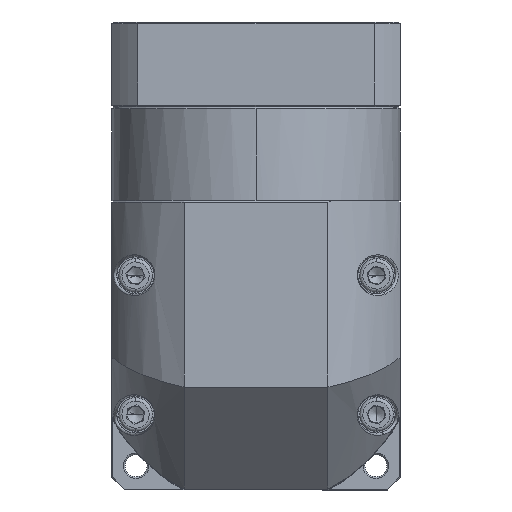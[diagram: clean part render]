
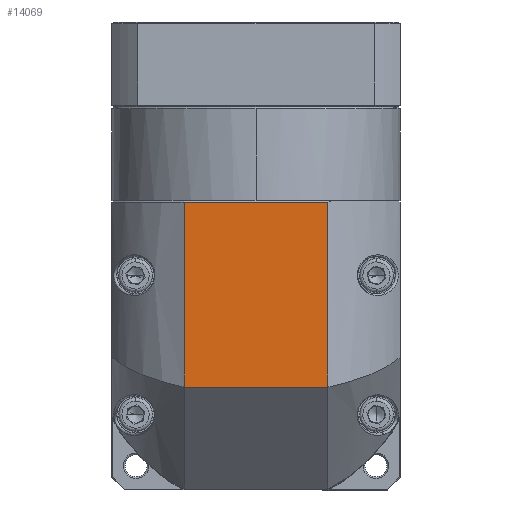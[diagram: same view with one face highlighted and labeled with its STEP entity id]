
A CAD part, top view. The second image highlights one B-rep face of the part: STEP entity #14069.
In plain terms, the highlighted planar face has unit normal (0, 0, 1).
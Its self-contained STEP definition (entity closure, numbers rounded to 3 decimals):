
#6417 = ORIENTED_EDGE ( 'NONE', *, *, #77126, .F. ) ;
#11284 = CARTESIAN_POINT ( 'NONE',  ( -49.272, 29.627, 70.161 ) ) ;
#11583 = LINE ( 'NONE', #93164, #60177 ) ;
#12462 = PLANE ( 'NONE',  #86927 ) ;
#14069 = ADVANCED_FACE ( 'NONE', ( #56382 ), #12462, .T. ) ;
#19924 = VECTOR ( 'NONE', #68169, 1000. ) ;
#22046 = DIRECTION ( 'NONE',  ( -1., 0., 0. ) ) ;
#22321 = DIRECTION ( 'NONE',  ( 0., 0., 1. ) ) ;
#27762 = VERTEX_POINT ( 'NONE', #110398 ) ;
#30277 = CARTESIAN_POINT ( 'NONE',  ( -70.485, 29.627, 70.161 ) ) ;
#32224 = LINE ( 'NONE', #11284, #52422 ) ;
#37847 = VECTOR ( 'NONE', #99045, 1000. ) ;
#39814 = DIRECTION ( 'NONE',  ( -1., 0., 0. ) ) ;
#40146 = LINE ( 'NONE', #66761, #19924 ) ;
#40949 = VERTEX_POINT ( 'NONE', #57919 ) ;
#52422 = VECTOR ( 'NONE', #22046, 1000. ) ;
#56382 = FACE_OUTER_BOUND ( 'NONE', #73142, .T. ) ;
#57189 = EDGE_CURVE ( 'NONE', #126534, #40949, #40146, .T. ) ;
#57919 = CARTESIAN_POINT ( 'NONE',  ( -70.485, 84.127, 70.161 ) ) ;
#60177 = VECTOR ( 'NONE', #39814, 1000. ) ;
#60868 = CARTESIAN_POINT ( 'NONE',  ( -28.059, 84.127, 70.161 ) ) ;
#66334 = LINE ( 'NONE', #76546, #37847 ) ;
#66761 = CARTESIAN_POINT ( 'NONE',  ( -70.485, -15.873, 70.161 ) ) ;
#68169 = DIRECTION ( 'NONE',  ( 0., 1., 0. ) ) ;
#73142 = EDGE_LOOP ( 'NONE', ( #118395, #6417, #96505, #118662 ) ) ;
#76546 = CARTESIAN_POINT ( 'NONE',  ( -28.059, -15.873, 70.161 ) ) ;
#77126 = EDGE_CURVE ( 'NONE', #27762, #126534, #32224, .T. ) ;
#86927 = AXIS2_PLACEMENT_3D ( 'NONE', #130115, #22321, #109532 ) ;
#93164 = CARTESIAN_POINT ( 'NONE',  ( -49.272, 84.127, 70.161 ) ) ;
#93732 = EDGE_CURVE ( 'NONE', #139106, #27762, #66334, .T. ) ;
#96505 = ORIENTED_EDGE ( 'NONE', *, *, #93732, .F. ) ;
#99045 = DIRECTION ( 'NONE',  ( 0., -1., 0. ) ) ;
#109532 = DIRECTION ( 'NONE',  ( 0., 1., 0. ) ) ;
#110398 = CARTESIAN_POINT ( 'NONE',  ( -28.059, 29.627, 70.161 ) ) ;
#118395 = ORIENTED_EDGE ( 'NONE', *, *, #57189, .F. ) ;
#118662 = ORIENTED_EDGE ( 'NONE', *, *, #120398, .T. ) ;
#120398 = EDGE_CURVE ( 'NONE', #139106, #40949, #11583, .T. ) ;
#126534 = VERTEX_POINT ( 'NONE', #30277 ) ;
#130115 = CARTESIAN_POINT ( 'NONE',  ( -49.272, 42.127, 70.161 ) ) ;
#139106 = VERTEX_POINT ( 'NONE', #60868 ) ;
